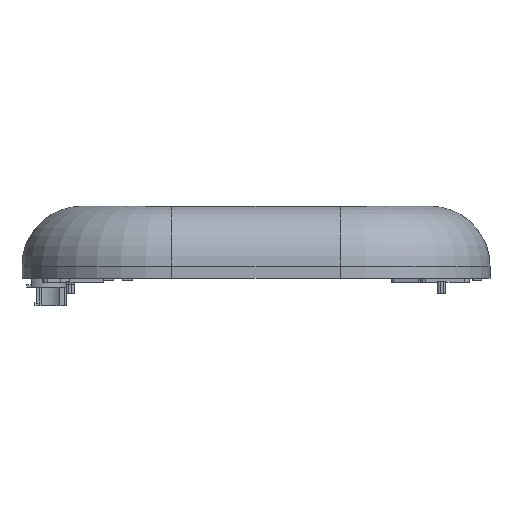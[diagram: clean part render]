
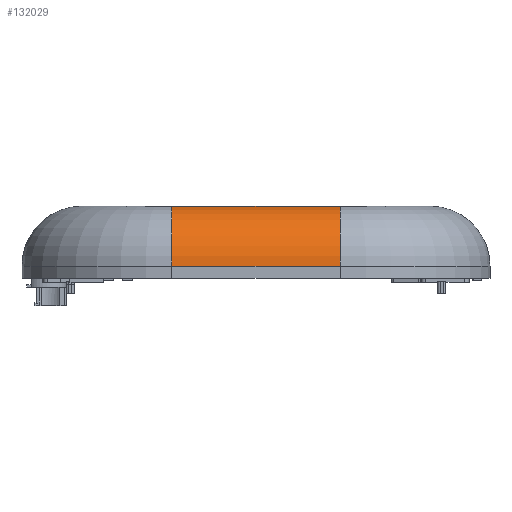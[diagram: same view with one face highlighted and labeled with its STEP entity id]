
A CAD part, front view. The second image highlights one B-rep face of the part: STEP entity #132029.
In plain terms, the highlighted cylindrical face has radius 10 mm (diameter 20 mm), a partial arc.
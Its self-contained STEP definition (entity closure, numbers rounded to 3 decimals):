
#68380 = PLANE('',#68381);
#68381 = AXIS2_PLACEMENT_3D('',#68382,#68383,#68384);
#68382 = CARTESIAN_POINT('',(0.,0.,0.));
#68383 = DIRECTION('',(0.,0.,1.));
#68384 = DIRECTION('',(1.,0.,-0.));
#108439 = VERTEX_POINT('',#108440);
#108440 = CARTESIAN_POINT('',(-14.,-65.,0.));
#108459 = TOROIDAL_SURFACE('',#108460,15.,10.);
#108460 = AXIS2_PLACEMENT_3D('',#108461,#108462,#108463);
#108461 = CARTESIAN_POINT('',(-14.,-50.,-10.));
#108462 = DIRECTION('',(0.,0.,1.));
#108463 = DIRECTION('',(1.,0.,-0.));
#108471 = EDGE_CURVE('',#108472,#108439,#108474,.T.);
#108472 = VERTEX_POINT('',#108473);
#108473 = CARTESIAN_POINT('',(14.,-65.,0.));
#108474 = SURFACE_CURVE('',#108475,(#108479,#108486),.PCURVE_S1.);
#108475 = LINE('',#108476,#108477);
#108476 = CARTESIAN_POINT('',(0.,-65.,0.));
#108477 = VECTOR('',#108478,1.);
#108478 = DIRECTION('',(-1.,0.,0.));
#108479 = PCURVE('',#68380,#108480);
#108480 = DEFINITIONAL_REPRESENTATION('',(#108481),#108485);
#108481 = LINE('',#108482,#108483);
#108482 = CARTESIAN_POINT('',(0.,-65.));
#108483 = VECTOR('',#108484,1.);
#108484 = DIRECTION('',(-1.,0.));
#108485 = ( GEOMETRIC_REPRESENTATION_CONTEXT(2) 
PARAMETRIC_REPRESENTATION_CONTEXT() REPRESENTATION_CONTEXT('2D SPACE',''
  ) );
#108486 = PCURVE('',#108487,#108492);
#108487 = CYLINDRICAL_SURFACE('',#108488,10.);
#108488 = AXIS2_PLACEMENT_3D('',#108489,#108490,#108491);
#108489 = CARTESIAN_POINT('',(0.,-65.,-10.));
#108490 = DIRECTION('',(1.,0.,0.));
#108491 = DIRECTION('',(0.,-0.707,0.707));
#108492 = DEFINITIONAL_REPRESENTATION('',(#108493),#108497);
#108493 = LINE('',#108494,#108495);
#108494 = CARTESIAN_POINT('',(5.498,0.));
#108495 = VECTOR('',#108496,1.);
#108496 = DIRECTION('',(0.,-1.));
#108497 = ( GEOMETRIC_REPRESENTATION_CONTEXT(2) 
PARAMETRIC_REPRESENTATION_CONTEXT() REPRESENTATION_CONTEXT('2D SPACE',''
  ) );
#108520 = TOROIDAL_SURFACE('',#108521,15.,10.);
#108521 = AXIS2_PLACEMENT_3D('',#108522,#108523,#108524);
#108522 = CARTESIAN_POINT('',(14.,-50.,-10.));
#108523 = DIRECTION('',(0.,0.,1.));
#108524 = DIRECTION('',(1.,0.,-0.));
#116411 = PLANE('',#116412);
#116412 = AXIS2_PLACEMENT_3D('',#116413,#116414,#116415);
#116413 = CARTESIAN_POINT('',(0.,-75.,-12.));
#116414 = DIRECTION('',(0.,1.,0.));
#116415 = DIRECTION('',(0.,-0.,1.));
#131982 = EDGE_CURVE('',#131983,#108439,#131985,.T.);
#131983 = VERTEX_POINT('',#131984);
#131984 = CARTESIAN_POINT('',(-14.,-75.,-10.));
#131985 = SURFACE_CURVE('',#131986,(#131991,#131998),.PCURVE_S1.);
#131986 = CIRCLE('',#131987,10.);
#131987 = AXIS2_PLACEMENT_3D('',#131988,#131989,#131990);
#131988 = CARTESIAN_POINT('',(-14.,-65.,-10.));
#131989 = DIRECTION('',(-1.,0.,0.));
#131990 = DIRECTION('',(0.,-1.,0.));
#131991 = PCURVE('',#108459,#131992);
#131992 = DEFINITIONAL_REPRESENTATION('',(#131993),#131997);
#131993 = LINE('',#131994,#131995);
#131994 = CARTESIAN_POINT('',(4.712,0.));
#131995 = VECTOR('',#131996,1.);
#131996 = DIRECTION('',(0.,1.));
#131997 = ( GEOMETRIC_REPRESENTATION_CONTEXT(2) 
PARAMETRIC_REPRESENTATION_CONTEXT() REPRESENTATION_CONTEXT('2D SPACE',''
  ) );
#131998 = PCURVE('',#108487,#131999);
#131999 = DEFINITIONAL_REPRESENTATION('',(#132000),#132004);
#132000 = LINE('',#132001,#132002);
#132001 = CARTESIAN_POINT('',(7.069,-14.));
#132002 = VECTOR('',#132003,1.);
#132003 = DIRECTION('',(-1.,0.));
#132004 = ( GEOMETRIC_REPRESENTATION_CONTEXT(2) 
PARAMETRIC_REPRESENTATION_CONTEXT() REPRESENTATION_CONTEXT('2D SPACE',''
  ) );
#132029 = ADVANCED_FACE('',(#132030),#108487,.T.);
#132030 = FACE_BOUND('',#132031,.T.);
#132031 = EDGE_LOOP('',(#132032,#132056,#132057,#132058));
#132032 = ORIENTED_EDGE('',*,*,#132033,.T.);
#132033 = EDGE_CURVE('',#132034,#108472,#132036,.T.);
#132034 = VERTEX_POINT('',#132035);
#132035 = CARTESIAN_POINT('',(14.,-75.,-10.));
#132036 = SURFACE_CURVE('',#132037,(#132042,#132049),.PCURVE_S1.);
#132037 = CIRCLE('',#132038,10.);
#132038 = AXIS2_PLACEMENT_3D('',#132039,#132040,#132041);
#132039 = CARTESIAN_POINT('',(14.,-65.,-10.));
#132040 = DIRECTION('',(-1.,0.,0.));
#132041 = DIRECTION('',(0.,-1.,0.));
#132042 = PCURVE('',#108487,#132043);
#132043 = DEFINITIONAL_REPRESENTATION('',(#132044),#132048);
#132044 = LINE('',#132045,#132046);
#132045 = CARTESIAN_POINT('',(7.069,14.));
#132046 = VECTOR('',#132047,1.);
#132047 = DIRECTION('',(-1.,0.));
#132048 = ( GEOMETRIC_REPRESENTATION_CONTEXT(2) 
PARAMETRIC_REPRESENTATION_CONTEXT() REPRESENTATION_CONTEXT('2D SPACE',''
  ) );
#132049 = PCURVE('',#108520,#132050);
#132050 = DEFINITIONAL_REPRESENTATION('',(#132051),#132055);
#132051 = LINE('',#132052,#132053);
#132052 = CARTESIAN_POINT('',(4.712,0.));
#132053 = VECTOR('',#132054,1.);
#132054 = DIRECTION('',(0.,1.));
#132055 = ( GEOMETRIC_REPRESENTATION_CONTEXT(2) 
PARAMETRIC_REPRESENTATION_CONTEXT() REPRESENTATION_CONTEXT('2D SPACE',''
  ) );
#132056 = ORIENTED_EDGE('',*,*,#108471,.T.);
#132057 = ORIENTED_EDGE('',*,*,#131982,.F.);
#132058 = ORIENTED_EDGE('',*,*,#132059,.T.);
#132059 = EDGE_CURVE('',#131983,#132034,#132060,.T.);
#132060 = SURFACE_CURVE('',#132061,(#132065,#132072),.PCURVE_S1.);
#132061 = LINE('',#132062,#132063);
#132062 = CARTESIAN_POINT('',(0.,-75.,-10.));
#132063 = VECTOR('',#132064,1.);
#132064 = DIRECTION('',(1.,0.,0.));
#132065 = PCURVE('',#108487,#132066);
#132066 = DEFINITIONAL_REPRESENTATION('',(#132067),#132071);
#132067 = LINE('',#132068,#132069);
#132068 = CARTESIAN_POINT('',(7.069,0.));
#132069 = VECTOR('',#132070,1.);
#132070 = DIRECTION('',(0.,1.));
#132071 = ( GEOMETRIC_REPRESENTATION_CONTEXT(2) 
PARAMETRIC_REPRESENTATION_CONTEXT() REPRESENTATION_CONTEXT('2D SPACE',''
  ) );
#132072 = PCURVE('',#116411,#132073);
#132073 = DEFINITIONAL_REPRESENTATION('',(#132074),#132078);
#132074 = LINE('',#132075,#132076);
#132075 = CARTESIAN_POINT('',(2.,0.));
#132076 = VECTOR('',#132077,1.);
#132077 = DIRECTION('',(0.,1.));
#132078 = ( GEOMETRIC_REPRESENTATION_CONTEXT(2) 
PARAMETRIC_REPRESENTATION_CONTEXT() REPRESENTATION_CONTEXT('2D SPACE',''
  ) );
